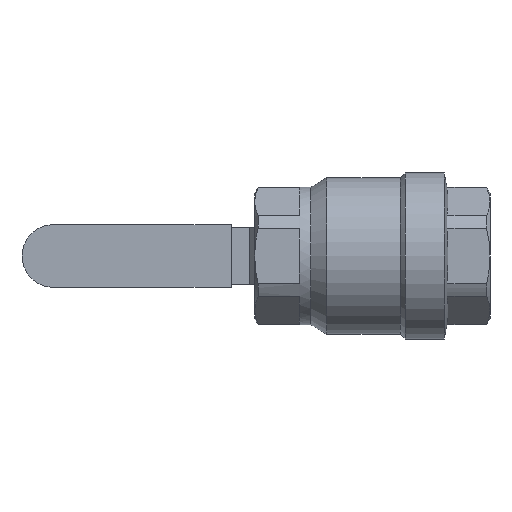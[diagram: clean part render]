
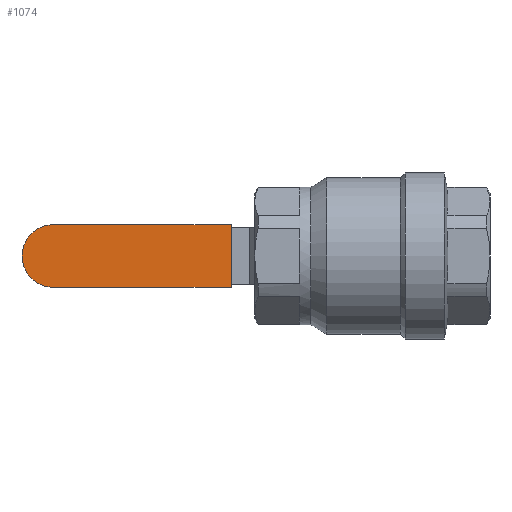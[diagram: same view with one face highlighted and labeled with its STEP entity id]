
A CAD part, front view. The second image highlights one B-rep face of the part: STEP entity #1074.
In plain terms, the highlighted planar face has unit normal (0, -1, 0).
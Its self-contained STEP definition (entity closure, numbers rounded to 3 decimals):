
#45 = DIRECTION ( 'NONE',  ( 1., 0., 0. ) ) ;
#285 = VERTEX_POINT ( 'NONE', #2472 ) ;
#330 = AXIS2_PLACEMENT_3D ( 'NONE', #979, #1354, #3930 ) ;
#614 = CARTESIAN_POINT ( 'NONE',  ( -122., 81., 0. ) ) ;
#879 = LINE ( 'NONE', #2248, #2708 ) ;
#892 = CARTESIAN_POINT ( 'NONE',  ( -134., 81., 12. ) ) ;
#930 = VECTOR ( 'NONE', #3102, 1000. ) ;
#976 = DIRECTION ( 'NONE',  ( 0., 0., 1. ) ) ;
#979 = CARTESIAN_POINT ( 'NONE',  ( -134., 81., 12. ) ) ;
#1067 = CARTESIAN_POINT ( 'NONE',  ( -54., 81., 12. ) ) ;
#1074 = ADVANCED_FACE ( 'NONE', ( #3178 ), #3190, .F. ) ;
#1354 = DIRECTION ( 'NONE',  ( 0., 1., 0. ) ) ;
#1368 = VERTEX_POINT ( 'NONE', #4429 ) ;
#1553 = ORIENTED_EDGE ( 'NONE', *, *, #3404, .F. ) ;
#1673 = CARTESIAN_POINT ( 'NONE',  ( -54., 81., 12. ) ) ;
#2052 = CARTESIAN_POINT ( 'NONE',  ( -122., 81., 12. ) ) ;
#2248 = CARTESIAN_POINT ( 'NONE',  ( -134., 81., -12. ) ) ;
#2272 = EDGE_LOOP ( 'NONE', ( #4629, #4305, #3461, #1553 ) ) ;
#2422 = DIRECTION ( 'NONE',  ( 0., 0., -1. ) ) ;
#2472 = CARTESIAN_POINT ( 'NONE',  ( -122., 81., -12. ) ) ;
#2708 = VECTOR ( 'NONE', #45, 1000. ) ;
#2877 = LINE ( 'NONE', #892, #930 ) ;
#2958 = EDGE_CURVE ( 'NONE', #4474, #285, #4495, .T. ) ;
#3102 = DIRECTION ( 'NONE',  ( 1., 0., 0. ) ) ;
#3123 = EDGE_CURVE ( 'NONE', #285, #1368, #879, .T. ) ;
#3170 = AXIS2_PLACEMENT_3D ( 'NONE', #614, #3183, #976 ) ;
#3178 = FACE_OUTER_BOUND ( 'NONE', #2272, .T. ) ;
#3183 = DIRECTION ( 'NONE',  ( 0., -1., 0. ) ) ;
#3190 = PLANE ( 'NONE',  #330 ) ;
#3300 = EDGE_CURVE ( 'NONE', #4474, #3607, #2877, .T. ) ;
#3404 = EDGE_CURVE ( 'NONE', #3607, #1368, #4374, .T. ) ;
#3418 = VECTOR ( 'NONE', #2422, 1000. ) ;
#3461 = ORIENTED_EDGE ( 'NONE', *, *, #3123, .T. ) ;
#3607 = VERTEX_POINT ( 'NONE', #1067 ) ;
#3930 = DIRECTION ( 'NONE',  ( 0., 0., 1. ) ) ;
#4305 = ORIENTED_EDGE ( 'NONE', *, *, #2958, .T. ) ;
#4374 = LINE ( 'NONE', #1673, #3418 ) ;
#4429 = CARTESIAN_POINT ( 'NONE',  ( -54., 81., -12. ) ) ;
#4474 = VERTEX_POINT ( 'NONE', #2052 ) ;
#4495 = CIRCLE ( 'NONE', #3170, 12. ) ;
#4629 = ORIENTED_EDGE ( 'NONE', *, *, #3300, .F. ) ;
